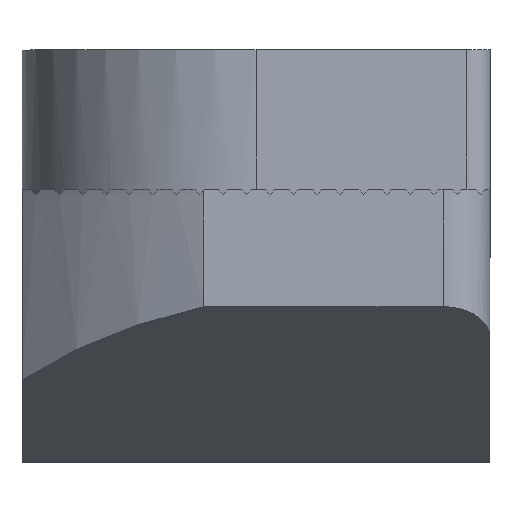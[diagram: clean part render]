
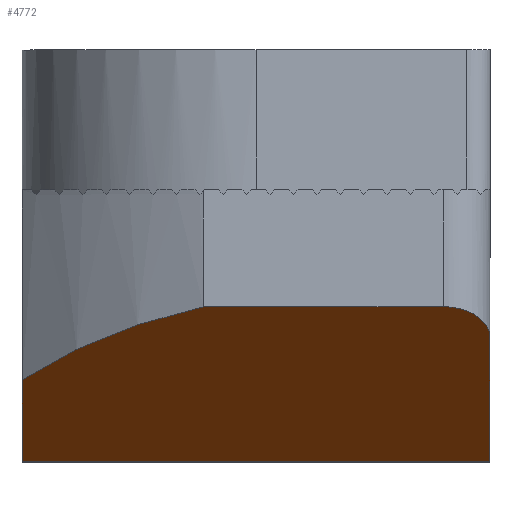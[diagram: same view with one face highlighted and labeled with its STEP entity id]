
A CAD part, top view. The second image highlights one B-rep face of the part: STEP entity #4772.
In plain terms, the highlighted planar face has unit normal (0, -0.835, 0.551).
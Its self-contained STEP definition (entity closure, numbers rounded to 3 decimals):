
#34 = VECTOR ( 'NONE', #1842, 1000. ) ;
#67 = CARTESIAN_POINT ( 'NONE',  ( -1.122, -2.5, 9.5 ) ) ;
#78 = DIRECTION ( 'NONE',  ( 1., 0., 0. ) ) ;
#307 = VERTEX_POINT ( 'NONE', #892 ) ;
#402 = CARTESIAN_POINT ( 'NONE',  ( -2.585, -2.817, 9.019 ) ) ;
#514 = VERTEX_POINT ( 'NONE', #1886 ) ;
#647 =( BOUNDED_CURVE ( )  B_SPLINE_CURVE ( 3, ( #1569, #3795, #4185, #1951 ),
 .UNSPECIFIED., .F., .F. ) 
 B_SPLINE_CURVE_WITH_KNOTS ( ( 4, 4 ),
 ( 4.712, 6.283 ),
 .UNSPECIFIED. ) 
 CURVE ( )  GEOMETRIC_REPRESENTATION_ITEM ( )  RATIONAL_B_SPLINE_CURVE ( ( 1., 0.805, 0.805, 1. ) ) 
 REPRESENTATION_ITEM ( '' )  );
#652 = ORIENTED_EDGE ( 'NONE', *, *, #3758, .T. ) ;
#746 = VECTOR ( 'NONE', #812, 1000. ) ;
#812 = DIRECTION ( 'NONE',  ( 0., 0.551, 0.835 ) ) ;
#892 = CARTESIAN_POINT ( 'NONE',  ( 5., -5.8, 4.5 ) ) ;
#1049 = ORIENTED_EDGE ( 'NONE', *, *, #2585, .F. ) ;
#1118 = LINE ( 'NONE', #2238, #34 ) ;
#1193 = DIRECTION ( 'NONE',  ( 0., 0.551, 0.835 ) ) ;
#1530 = ORIENTED_EDGE ( 'NONE', *, *, #4556, .F. ) ;
#1543 = ORIENTED_EDGE ( 'NONE', *, *, #3340, .F. ) ;
#1569 = CARTESIAN_POINT ( 'NONE',  ( 5., -3.16, 8.5 ) ) ;
#1697 = VERTEX_POINT ( 'NONE', #67 ) ;
#1768 = CARTESIAN_POINT ( 'NONE',  ( 5., -2.5, 9.5 ) ) ;
#1821 = LINE ( 'NONE', #1768, #1826 ) ;
#1826 = VECTOR ( 'NONE', #2148, 1000. ) ;
#1842 = DIRECTION ( 'NONE',  ( 1., 0., 0. ) ) ;
#1886 = CARTESIAN_POINT ( 'NONE',  ( -5., -5.8, 4.5 ) ) ;
#1951 = CARTESIAN_POINT ( 'NONE',  ( 4., -2.5, 9.5 ) ) ;
#2148 = DIRECTION ( 'NONE',  ( 0., 0.551, 0.835 ) ) ;
#2238 = CARTESIAN_POINT ( 'NONE',  ( -5., -5.8, 4.5 ) ) ;
#2270 = VECTOR ( 'NONE', #78, 1000. ) ;
#2315 = LINE ( 'NONE', #3553, #2270 ) ;
#2379 = CARTESIAN_POINT ( 'NONE',  ( -5., -2.5, 9.5 ) ) ;
#2456 = EDGE_CURVE ( 'NONE', #3614, #4880, #647, .T. ) ;
#2569 = CARTESIAN_POINT ( 'NONE',  ( -5., -4.057, 7.141 ) ) ;
#2585 = EDGE_CURVE ( 'NONE', #1697, #4880, #2315, .T. ) ;
#2738 = PLANE ( 'NONE',  #4143 ) ;
#2765 = CARTESIAN_POINT ( 'NONE',  ( -5., -4.057, 7.141 ) ) ;
#2953 = CARTESIAN_POINT ( 'NONE',  ( 4., -2.5, 9.5 ) ) ;
#3131 = CARTESIAN_POINT ( 'NONE',  ( -1.122, -2.5, 9.5 ) ) ;
#3234 = EDGE_LOOP ( 'NONE', ( #652, #3834, #1049, #1543, #1530, #4834 ) ) ;
#3340 = EDGE_CURVE ( 'NONE', #4278, #1697, #3984, .T. ) ;
#3474 = DIRECTION ( 'NONE',  ( 0., 0.835, -0.551 ) ) ;
#3488 = CARTESIAN_POINT ( 'NONE',  ( -5., -2.5, 9.5 ) ) ;
#3553 = CARTESIAN_POINT ( 'NONE',  ( -5., -2.5, 9.5 ) ) ;
#3614 = VERTEX_POINT ( 'NONE', #3653 ) ;
#3653 = CARTESIAN_POINT ( 'NONE',  ( 5., -3.16, 8.5 ) ) ;
#3758 = EDGE_CURVE ( 'NONE', #307, #3614, #1821, .T. ) ;
#3795 = CARTESIAN_POINT ( 'NONE',  ( 5., -2.773, 9.086 ) ) ;
#3834 = ORIENTED_EDGE ( 'NONE', *, *, #2456, .T. ) ;
#3984 =( BOUNDED_CURVE ( )  B_SPLINE_CURVE ( 3, ( #2765, #4972, #402, #3131 ),
 .UNSPECIFIED., .F., .F. ) 
 B_SPLINE_CURVE_WITH_KNOTS ( ( 4, 4 ),
 ( 5.508, 5.966 ),
 .UNSPECIFIED. ) 
 CURVE ( )  GEOMETRIC_REPRESENTATION_ITEM ( )  RATIONAL_B_SPLINE_CURVE ( ( 1., 0.983, 0.983, 1. ) ) 
 REPRESENTATION_ITEM ( '' )  );
#4143 = AXIS2_PLACEMENT_3D ( 'NONE', #2379, #3474, #1193 ) ;
#4185 = CARTESIAN_POINT ( 'NONE',  ( 4.586, -2.5, 9.5 ) ) ;
#4278 = VERTEX_POINT ( 'NONE', #2569 ) ;
#4556 = EDGE_CURVE ( 'NONE', #514, #4278, #4776, .T. ) ;
#4599 = FACE_OUTER_BOUND ( 'NONE', #3234, .T. ) ;
#4772 = ADVANCED_FACE ( 'NONE', ( #4599 ), #2738, .F. ) ;
#4776 = LINE ( 'NONE', #3488, #746 ) ;
#4834 = ORIENTED_EDGE ( 'NONE', *, *, #4902, .T. ) ;
#4880 = VERTEX_POINT ( 'NONE', #2953 ) ;
#4902 = EDGE_CURVE ( 'NONE', #514, #307, #1118, .T. ) ;
#4972 = CARTESIAN_POINT ( 'NONE',  ( -3.901, -3.345, 8.219 ) ) ;
